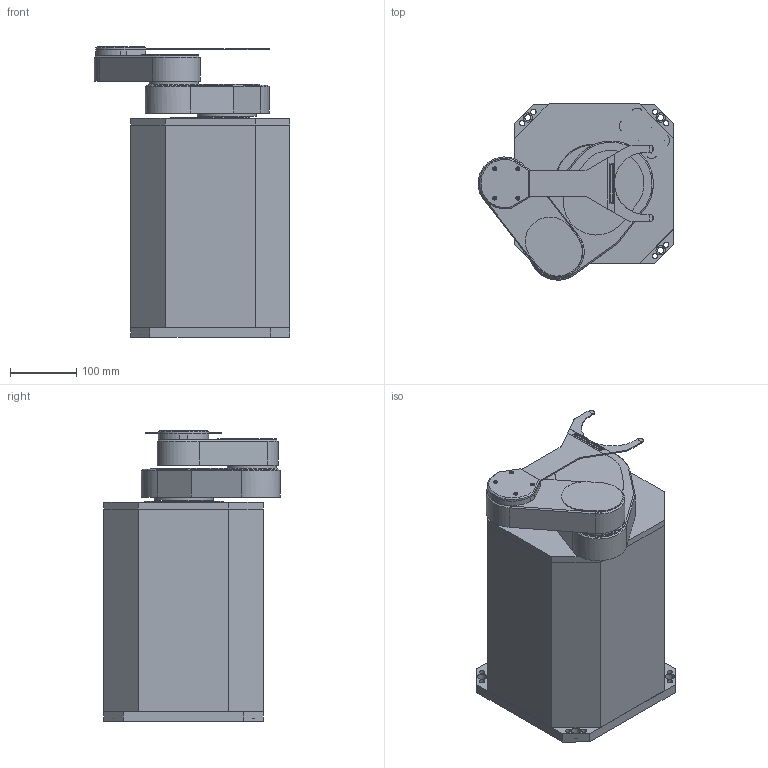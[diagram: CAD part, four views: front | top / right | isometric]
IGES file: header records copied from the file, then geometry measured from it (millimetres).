
Global section: file name: SCR3130CS-200-PM-04755A; native system: Autodesk Inventor 2018; preprocessor: unknown; author: m-takamori; date: 20180403.165351; units: millimetre
Bounding box: 294.9 x 265.4 x 438.2 mm (x, y, z)
Volume: 19062867.6 mm3; surface area: 740215.5 mm2
Topology: 7 solids, 7 shells, 260 faces, 658 edges, 439 vertices
Faces by surface type: bspline 260
